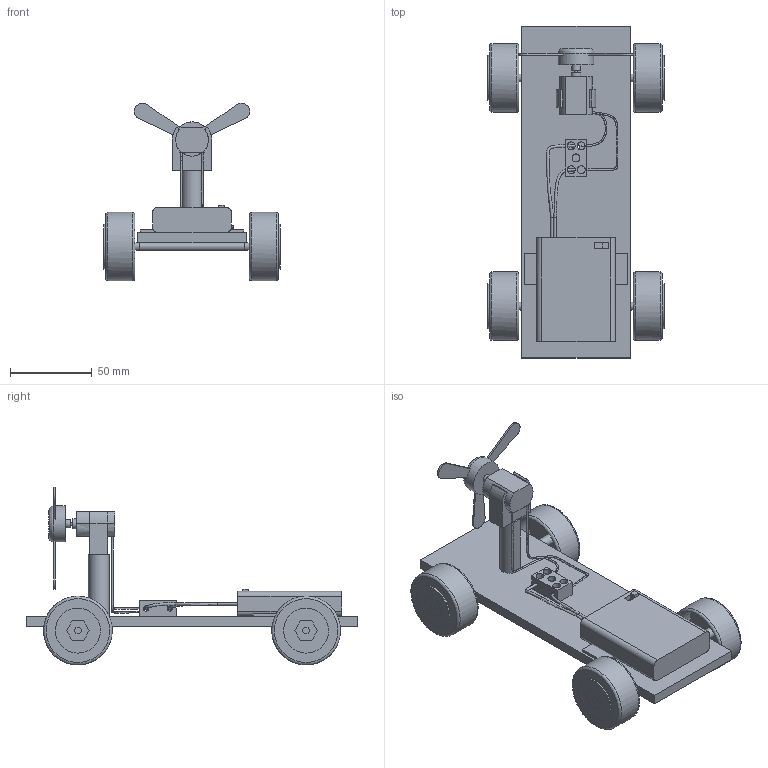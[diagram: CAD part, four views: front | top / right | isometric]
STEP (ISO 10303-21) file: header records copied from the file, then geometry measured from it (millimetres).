
FILE_DESCRIPTION ((), '1');
FILE_NAME ('/Volumes/Data/Drawings/Moi3D/fan powered car eudax/fan powered car 20210729.stp', '2021-07-29T09:15:34', ('Unknown'), ('Unknown'), 'HarmonyWare STEP v2.1.4', 'HarmonyWare Translators', '');
FILE_SCHEMA (('CONFIG_CONTROL_DESIGN'));
Length unit declared in the file: inch
Products named in the file (21): velcro; axles; axle bearings; wheels front; wheels back; motor fan post assembly; terminal block; battery case 4AAA; chassis platform
Assembly tree (20 placements, depth 2):
  (unnamed)
    velcro
    axles
    axles
    axle bearings
    axle bearings
    wheels front
    wheels back
    wheels back
    wheels front
    (unnamed)
    motor fan post assembly
    motor fan post assembly
    motor fan post assembly
    motor fan post assembly
    terminal block
    battery case 4AAA
    (unnamed)
    (unnamed)
    (unnamed)
    chassis platform
Bounding box: 107.85 x 203.2 x 108.83 mm (x, y, z)
Volume: 192841.7 mm3; surface area: 88273.6 mm2
Topology: 20 solids, 20 shells, 223 faces, 518 edges, 364 vertices
Faces by surface type: bspline 223
Entity records: 13996 total; most frequent: CARTESIAN_POINT 7464, ORIENTED_EDGE 1028, EDGE_CURVE 514, VERTEX_POINT 359, B_SPLINE_CURVE_WITH_KNOTS 308, EDGE_LOOP 287, FACE_OUTER_BOUND 223, ADVANCED_FACE 223
